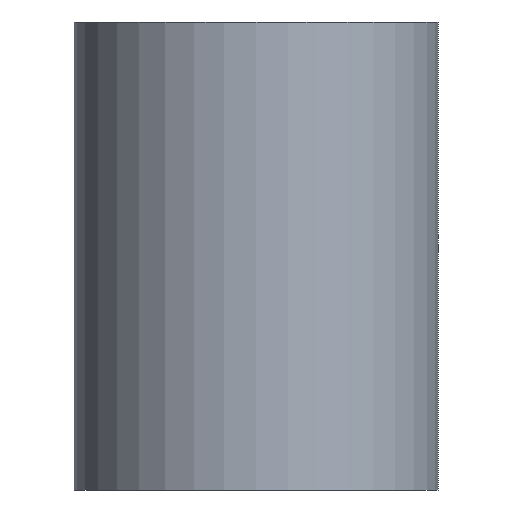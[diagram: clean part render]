
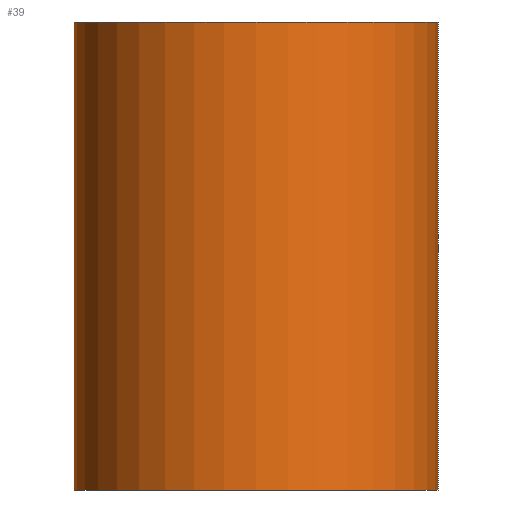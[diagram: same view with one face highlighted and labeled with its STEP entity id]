
A CAD part, front view. The second image highlights one B-rep face of the part: STEP entity #39.
In plain terms, the highlighted cylindrical face has radius 35 mm (diameter 70 mm), a full revolution.
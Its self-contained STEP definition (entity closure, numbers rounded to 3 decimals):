
#39 = ADVANCED_FACE('',(#40),#53,.T.);
#40 = FACE_BOUND('',#41,.T.);
#41 = EDGE_LOOP('',(#42,#76,#99,#126));
#42 = ORIENTED_EDGE('',*,*,#43,.T.);
#43 = EDGE_CURVE('',#44,#44,#46,.T.);
#44 = VERTEX_POINT('',#45);
#45 = CARTESIAN_POINT('',(35.,0.,0.));
#46 = SURFACE_CURVE('',#47,(#52,#64),.PCURVE_S1.);
#47 = CIRCLE('',#48,35.);
#48 = AXIS2_PLACEMENT_3D('',#49,#50,#51);
#49 = CARTESIAN_POINT('',(0.,0.,0.));
#50 = DIRECTION('',(0.,0.,1.));
#51 = DIRECTION('',(1.,0.,-0.));
#52 = PCURVE('',#53,#58);
#53 = CYLINDRICAL_SURFACE('',#54,35.);
#54 = AXIS2_PLACEMENT_3D('',#55,#56,#57);
#55 = CARTESIAN_POINT('',(0.,0.,0.));
#56 = DIRECTION('',(-0.,-0.,-1.));
#57 = DIRECTION('',(1.,0.,0.));
#58 = DEFINITIONAL_REPRESENTATION('',(#59),#63);
#59 = LINE('',#60,#61);
#60 = CARTESIAN_POINT('',(6.283,0.));
#61 = VECTOR('',#62,1.);
#62 = DIRECTION('',(-1.,0.));
#63 = ( GEOMETRIC_REPRESENTATION_CONTEXT(2) 
PARAMETRIC_REPRESENTATION_CONTEXT() REPRESENTATION_CONTEXT('2D SPACE',''
  ) );
#64 = PCURVE('',#65,#70);
#65 = PLANE('',#66);
#66 = AXIS2_PLACEMENT_3D('',#67,#68,#69);
#67 = CARTESIAN_POINT('',(0.,0.,0.));
#68 = DIRECTION('',(0.,0.,1.));
#69 = DIRECTION('',(1.,0.,-0.));
#70 = DEFINITIONAL_REPRESENTATION('',(#71),#75);
#71 = CIRCLE('',#72,35.);
#72 = AXIS2_PLACEMENT_2D('',#73,#74);
#73 = CARTESIAN_POINT('',(0.,0.));
#74 = DIRECTION('',(1.,0.));
#75 = ( GEOMETRIC_REPRESENTATION_CONTEXT(2) 
PARAMETRIC_REPRESENTATION_CONTEXT() REPRESENTATION_CONTEXT('2D SPACE',''
  ) );
#76 = ORIENTED_EDGE('',*,*,#77,.T.);
#77 = EDGE_CURVE('',#44,#78,#80,.T.);
#78 = VERTEX_POINT('',#79);
#79 = CARTESIAN_POINT('',(35.,0.,90.));
#80 = SEAM_CURVE('',#81,(#85,#92),.PCURVE_S1.);
#81 = LINE('',#82,#83);
#82 = CARTESIAN_POINT('',(35.,0.,0.));
#83 = VECTOR('',#84,1.);
#84 = DIRECTION('',(0.,0.,1.));
#85 = PCURVE('',#53,#86);
#86 = DEFINITIONAL_REPRESENTATION('',(#87),#91);
#87 = LINE('',#88,#89);
#88 = CARTESIAN_POINT('',(0.,0.));
#89 = VECTOR('',#90,1.);
#90 = DIRECTION('',(-0.,-1.));
#91 = ( GEOMETRIC_REPRESENTATION_CONTEXT(2) 
PARAMETRIC_REPRESENTATION_CONTEXT() REPRESENTATION_CONTEXT('2D SPACE',''
  ) );
#92 = PCURVE('',#53,#93);
#93 = DEFINITIONAL_REPRESENTATION('',(#94),#98);
#94 = LINE('',#95,#96);
#95 = CARTESIAN_POINT('',(6.283,0.));
#96 = VECTOR('',#97,1.);
#97 = DIRECTION('',(-0.,-1.));
#98 = ( GEOMETRIC_REPRESENTATION_CONTEXT(2) 
PARAMETRIC_REPRESENTATION_CONTEXT() REPRESENTATION_CONTEXT('2D SPACE',''
  ) );
#99 = ORIENTED_EDGE('',*,*,#100,.F.);
#100 = EDGE_CURVE('',#78,#78,#101,.T.);
#101 = SURFACE_CURVE('',#102,(#107,#114),.PCURVE_S1.);
#102 = CIRCLE('',#103,35.);
#103 = AXIS2_PLACEMENT_3D('',#104,#105,#106);
#104 = CARTESIAN_POINT('',(0.,0.,90.));
#105 = DIRECTION('',(0.,0.,1.));
#106 = DIRECTION('',(1.,0.,-0.));
#107 = PCURVE('',#53,#108);
#108 = DEFINITIONAL_REPRESENTATION('',(#109),#113);
#109 = LINE('',#110,#111);
#110 = CARTESIAN_POINT('',(6.283,-90.));
#111 = VECTOR('',#112,1.);
#112 = DIRECTION('',(-1.,0.));
#113 = ( GEOMETRIC_REPRESENTATION_CONTEXT(2) 
PARAMETRIC_REPRESENTATION_CONTEXT() REPRESENTATION_CONTEXT('2D SPACE',''
  ) );
#114 = PCURVE('',#115,#120);
#115 = PLANE('',#116);
#116 = AXIS2_PLACEMENT_3D('',#117,#118,#119);
#117 = CARTESIAN_POINT('',(0.,0.,90.));
#118 = DIRECTION('',(0.,0.,1.));
#119 = DIRECTION('',(1.,0.,-0.));
#120 = DEFINITIONAL_REPRESENTATION('',(#121),#125);
#121 = CIRCLE('',#122,35.);
#122 = AXIS2_PLACEMENT_2D('',#123,#124);
#123 = CARTESIAN_POINT('',(0.,0.));
#124 = DIRECTION('',(1.,0.));
#125 = ( GEOMETRIC_REPRESENTATION_CONTEXT(2) 
PARAMETRIC_REPRESENTATION_CONTEXT() REPRESENTATION_CONTEXT('2D SPACE',''
  ) );
#126 = ORIENTED_EDGE('',*,*,#77,.F.);
